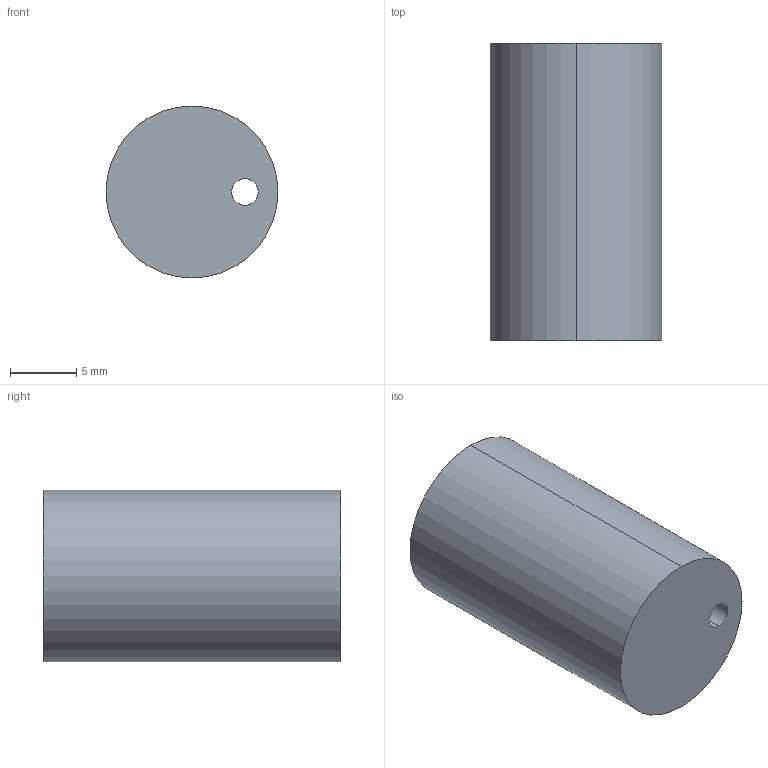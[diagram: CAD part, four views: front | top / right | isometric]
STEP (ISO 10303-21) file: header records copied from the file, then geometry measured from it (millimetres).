
FILE_DESCRIPTION (( 'STEP AP214' ), '1' );
FILE_NAME ('BR1716-13.STEP', '2020-01-29T17:54:20', ( 'August' ), ( '' ), 'SwSTEP 2.0', 'SolidWorks 2018', '' );
FILE_SCHEMA (( 'AUTOMOTIVE_DESIGN' ));
Length unit declared in the file: millimetre
Products named in the file (1): BR1716-13
Bounding box: 13 x 22.5 x 13 mm (x, y, z)
Volume: 2915.8 mm3; surface area: 1319.5 mm2
Topology: 1 solids, 1 shells, 6 faces, 12 edges, 8 vertices
Faces by surface type: cylinder 4, plane 2
Entity records: 202 total; most frequent: DIRECTION 34, CARTESIAN_POINT 27, ORIENTED_EDGE 24, AXIS2_PLACEMENT_3D 15, EDGE_CURVE 12, CIRCLE 8, VERTEX_POINT 8, EDGE_LOOP 8
